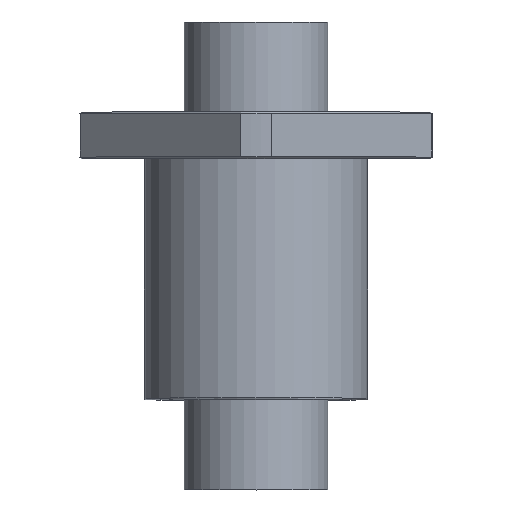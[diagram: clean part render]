
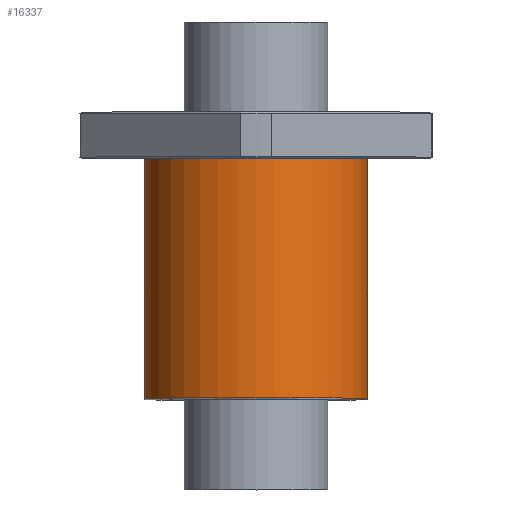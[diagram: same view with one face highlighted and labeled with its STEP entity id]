
A CAD part, top view. The second image highlights one B-rep face of the part: STEP entity #16337.
In plain terms, the highlighted cylindrical face has radius 31 mm (diameter 62 mm), a full revolution.
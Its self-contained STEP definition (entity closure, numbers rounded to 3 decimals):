
#2143=CYLINDRICAL_SURFACE('',#16713,31.);
#2265=CIRCLE('',#16445,31.);
#2266=CIRCLE('',#16446,31.);
#2293=CIRCLE('',#16714,31.);
#2294=CIRCLE('',#16715,31.);
#2295=CIRCLE('',#16716,31.);
#3155=FACE_OUTER_BOUND('',#4077,.T.);
#4077=EDGE_LOOP('',(#15185,#15186,#15187,#15188,#15189,#15190,#15191));
#5243=LINE('',#29331,#6403);
#6403=VECTOR('',#18593,31.);
#6481=VERTEX_POINT('',#18850);
#6482=VERTEX_POINT('',#18851);
#8016=VERTEX_POINT('',#29326);
#8017=VERTEX_POINT('',#29327);
#8018=VERTEX_POINT('',#29329);
#8117=EDGE_CURVE('',#6481,#6482,#2265,.T.);
#8118=EDGE_CURVE('',#6482,#6481,#2266,.T.);
#10413=EDGE_CURVE('',#8016,#8017,#2293,.T.);
#10414=EDGE_CURVE('',#8018,#8016,#2294,.T.);
#10415=EDGE_CURVE('',#8018,#6482,#5243,.T.);
#10416=EDGE_CURVE('',#8017,#8018,#2295,.T.);
#15185=ORIENTED_EDGE('',*,*,#10413,.F.);
#15186=ORIENTED_EDGE('',*,*,#10414,.F.);
#15187=ORIENTED_EDGE('',*,*,#10415,.T.);
#15188=ORIENTED_EDGE('',*,*,#8118,.T.);
#15189=ORIENTED_EDGE('',*,*,#8117,.T.);
#15190=ORIENTED_EDGE('',*,*,#10415,.F.);
#15191=ORIENTED_EDGE('',*,*,#10416,.F.);
#16337=ADVANCED_FACE('',(#3155),#2143,.T.);
#16445=AXIS2_PLACEMENT_3D('',#18852,#16927,#16928);
#16446=AXIS2_PLACEMENT_3D('',#18853,#16929,#16930);
#16713=AXIS2_PLACEMENT_3D('',#29325,#18587,#18588);
#16714=AXIS2_PLACEMENT_3D('',#29328,#18589,#18590);
#16715=AXIS2_PLACEMENT_3D('',#29330,#18591,#18592);
#16716=AXIS2_PLACEMENT_3D('',#29332,#18594,#18595);
#16927=DIRECTION('center_axis',(0.,-1.,0.));
#16928=DIRECTION('ref_axis',(1.,0.,0.));
#16929=DIRECTION('center_axis',(0.,-1.,0.));
#16930=DIRECTION('ref_axis',(1.,0.,0.));
#18587=DIRECTION('center_axis',(0.,-1.,0.));
#18588=DIRECTION('ref_axis',(1.,0.,0.));
#18589=DIRECTION('center_axis',(0.,-1.,0.));
#18590=DIRECTION('ref_axis',(1.,0.,0.));
#18591=DIRECTION('center_axis',(0.,-1.,0.));
#18592=DIRECTION('ref_axis',(1.,0.,0.));
#18593=DIRECTION('',(0.,1.,0.));
#18594=DIRECTION('center_axis',(0.,-1.,0.));
#18595=DIRECTION('ref_axis',(1.,0.,0.));
#18850=CARTESIAN_POINT('',(31.,27.,0.));
#18851=CARTESIAN_POINT('',(-31.,27.,0.));
#18852=CARTESIAN_POINT('Origin',(0.,27.,0.));
#18853=CARTESIAN_POINT('Origin',(0.,27.,0.));
#29325=CARTESIAN_POINT('Origin',(0.,0.,0.));
#29326=CARTESIAN_POINT('',(31.,-39.5,0.));
#29327=CARTESIAN_POINT('',(0.,-39.5,31.));
#29328=CARTESIAN_POINT('Origin',(0.,-39.5,0.));
#29329=CARTESIAN_POINT('',(-31.,-39.5,0.));
#29330=CARTESIAN_POINT('Origin',(0.,-39.5,0.));
#29331=CARTESIAN_POINT('',(-31.,0.,0.));
#29332=CARTESIAN_POINT('Origin',(0.,-39.5,0.));
